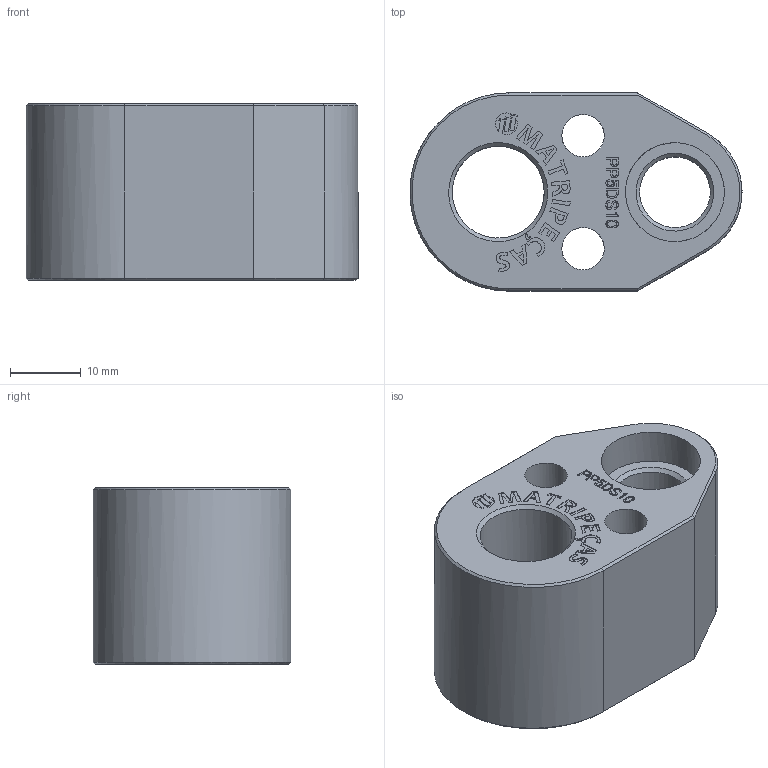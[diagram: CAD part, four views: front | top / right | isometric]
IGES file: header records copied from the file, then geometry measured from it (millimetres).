
Start section: C
Global section: file name: PP5DS10.igs; native system: By Siemens PLM Incorporated; preprocessor: XPlus GENERIC/IGES 18.0.17; author: Author; organization: Title; date: 20240724.112636; units: millimetre
Bounding box: 46.98 x 28 x 25 mm (x, y, z)
Volume: 17778.8 mm3; surface area: 7861.7 mm2
Topology: 1 solids, 1 shells, 260 faces, 678 edges, 449 vertices
Faces by surface type: bspline 260
